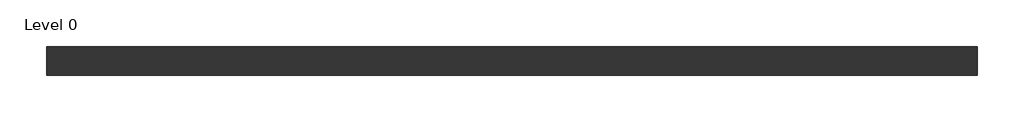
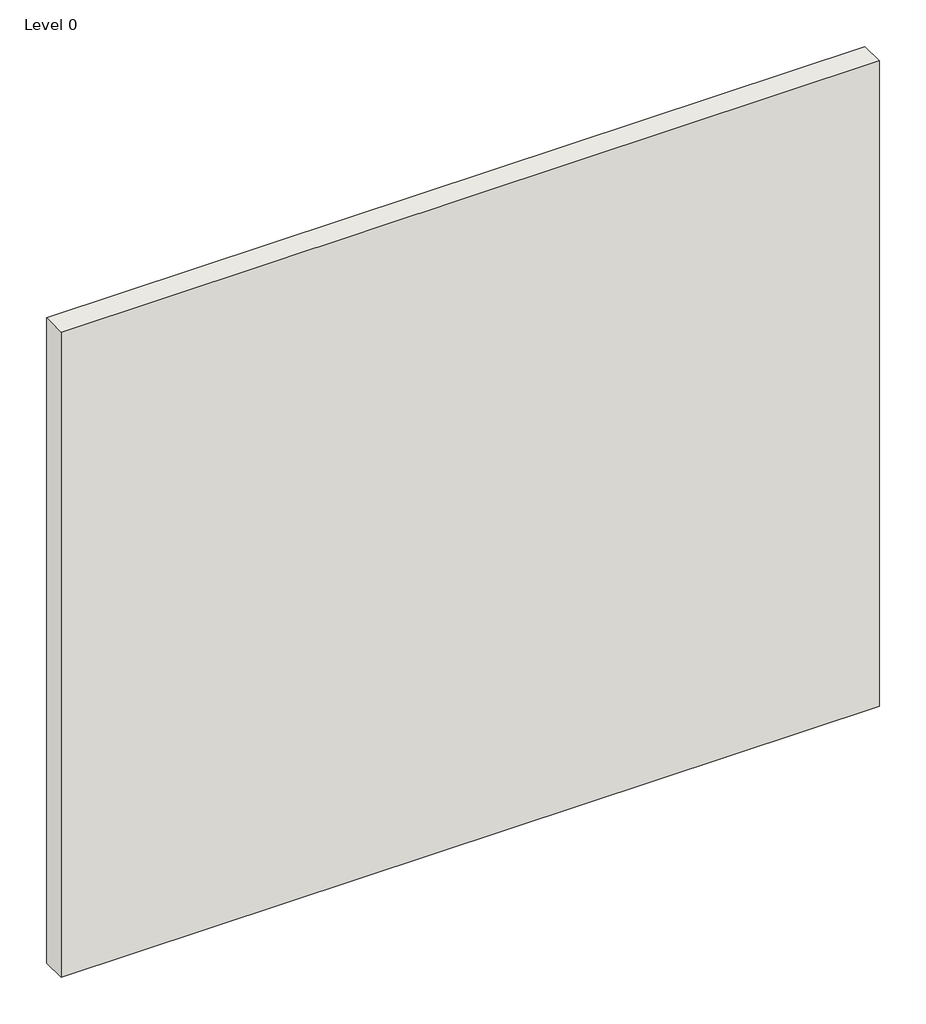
# One storey: 1 wall.
"""IFC4 building model written with IfcOpenShell, lengths in millimetres."""

from ifc_helpers import new_model, si_unit, origin, origin_with_axes, place, context, project, spatial, polyline, outline, extrude, element, save

model = new_model("IFC4")

# Units and contexts
model_context = context("Model", 3, world=origin())
ifc_project = project(units=[si_unit("LENGTHUNIT", "METRE", prefix="MILLI")], contexts=[model_context])

# Site, building, storey
site = spatial("IfcSite", under=ifc_project)
building = spatial("IfcBuilding", under=site)
storey = spatial("IfcBuildingStorey", under=building, Name="Level 0", Elevation=0.0)

# Wall
placement = place(None, origin())
element("IfcWall", 1, ObjectType="A306003 (a) - ShaftWall", at=placement, inside=storey, context=model_context, shape_type="SweptSolid", body=[
    extrude(outline(polyline([(2116.0807354, 547.7205641), (-883.9192646, 547.7205641), (-883.9192646, 639.7205641), (2116.0807354, 639.7205641), (2116.0807354, 547.7205641)])), origin_with_axes(), (0.0, 0.0, 1.0), 2500.0),
])

save(model, "model.ifc")
